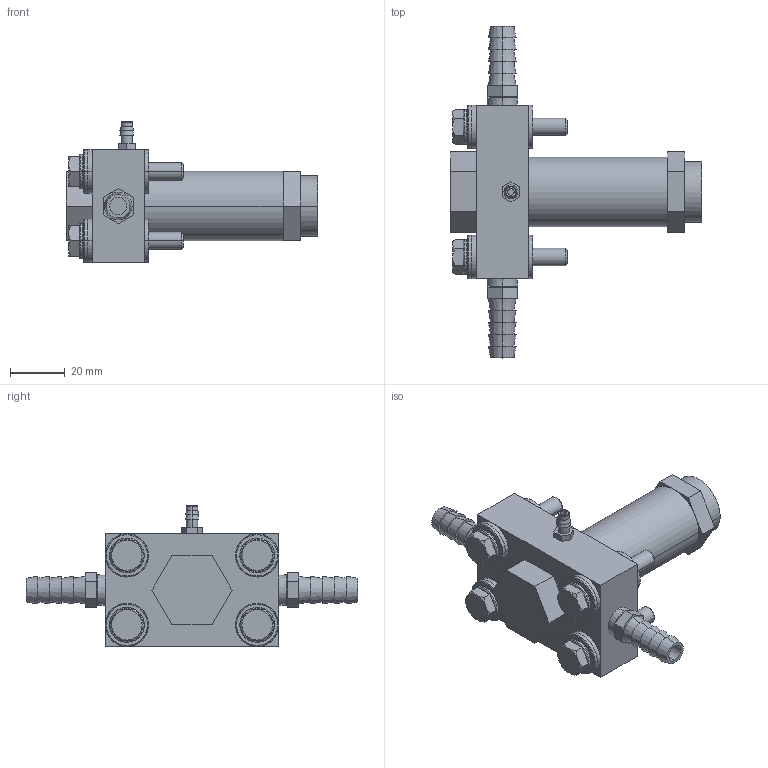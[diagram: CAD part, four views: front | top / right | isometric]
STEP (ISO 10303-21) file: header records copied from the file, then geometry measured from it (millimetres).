
FILE_DESCRIPTION((''),'2;1');
FILE_NAME('XK2_ASM','2017-08-24T',('jennifer.elliott'),('CenterLine (Windsor) Ltd - Automation Components Division'),'PRO/ENGINEER BY PARAMETRIC TECHNOLOGY CORPORATION, 2015030','PRO/ENGINEER BY PARAMETRIC TECHNOLOGY CORPORATION, 2015030','');
FILE_SCHEMA(('AUTOMOTIVE_DESIGN { 1 0 10303 214 1 1 1 1 }'));
Length unit declared in the file: inch
Products named in the file (30): PRT1393; PRT1394; PRT1395; PRT1396; PRT1397; PRT1398; PRT1399; PRT1400; PRT1401; PRT1402; PRT1403; PRT1404; PRT1405; PRT1406; ASM0015_ASM; PRT1407; PRT1408; PRT1409; PRT1410; PRT1411; PRT1412; PRT1413; PRT1414; PRT1415; PRT1416; PRT1417; PRT1418; PRT1419; PRT1420; XK2_ASM
Assembly tree (29 placements, depth 3):
  XK2_ASM
    PRT1393
    PRT1394
    PRT1395
    PRT1396
    PRT1397
    PRT1398
    PRT1399
    PRT1400
    PRT1401
    PRT1402
    ASM0015_ASM
      PRT1403
      PRT1404
      PRT1405
      PRT1406
    PRT1407
    PRT1408
    PRT1409
    PRT1410
    PRT1411
    PRT1412
    PRT1413
    PRT1414
    PRT1415
    PRT1416
    PRT1417
    PRT1418
    PRT1419
    PRT1420
Bounding box: 92.08 x 121.41 x 51.59 mm (x, y, z)
Volume: 97858.5 mm3; surface area: 38445.2 mm2
Topology: 28 solids, 28 shells, 321 faces, 706 edges, 462 vertices
Faces by surface type: plane 147, cylinder 86, cone 60, torus 28
Entity records: 11185 total; most frequent: CARTESIAN_POINT 2089, DIRECTION 1720, ORIENTED_EDGE 1412, AXIS2_PLACEMENT_3D 718, EDGE_CURVE 706, VERTEX_POINT 462, EDGE_LOOP 372, CIRCLE 334
